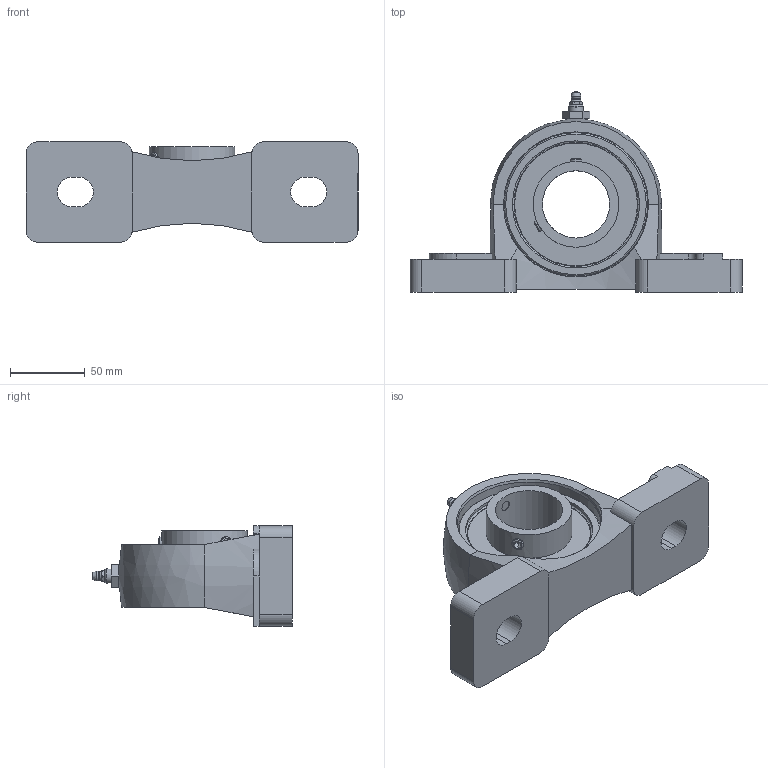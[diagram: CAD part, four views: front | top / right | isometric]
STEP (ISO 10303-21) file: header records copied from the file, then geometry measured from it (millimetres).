
FILE_DESCRIPTION((''),'2;1');
FILE_NAME('\\Ts-tgl068\J-Cad-D-BASE\00.3DCADデータ作成フォルダ\01.ピロー形\UCEP200\UCEP209.stp','2014-04-18T09:40:53',('btec_1106_2'),(''),'Autodesk Inventor 2012','Autodesk Inventor 2012','');
FILE_SCHEMA(('AUTOMOTIVE_DESIGN { 1 0 10303 214 1 1 1 1 }'));
Length unit declared in the file: millimetre
Products named in the file (7): UCEP200; EP209; AU110-1; EC209; GU1; シリーズUC [番手=209 ul]; M10X1
Assembly tree (6 placements, depth 2):
  UCEP200
    EP209
    AU110-1
    EC209
    GU1
    シリーズUC [番手=209 ul]
    M10X1
Bounding box: 222 x 134.09 x 67 mm (x, y, z)
Volume: 524131.8 mm3; surface area: 110594.7 mm2
Topology: 6 solids, 6 shells, 173 faces, 429 edges, 276 vertices
Faces by surface type: plane 91, cylinder 48, cone 21, torus 8, sphere 4, bspline 1
Full cylindrical faces by diameter (mm): 2 x1, 5 x1, 5.359 x1, 6.35 x1, 8 x2, 8.376 x2, 10 x1, 45 x1, 57.3 x2, 85 x2, 96 x2
Entity records: 5385 total; most frequent: CARTESIAN_POINT 1206, DIRECTION 848, ORIENTED_EDGE 756, EDGE_CURVE 378, AXIS2_PLACEMENT_3D 331, VERTEX_POINT 262, EDGE_LOOP 234, VECTOR 186
